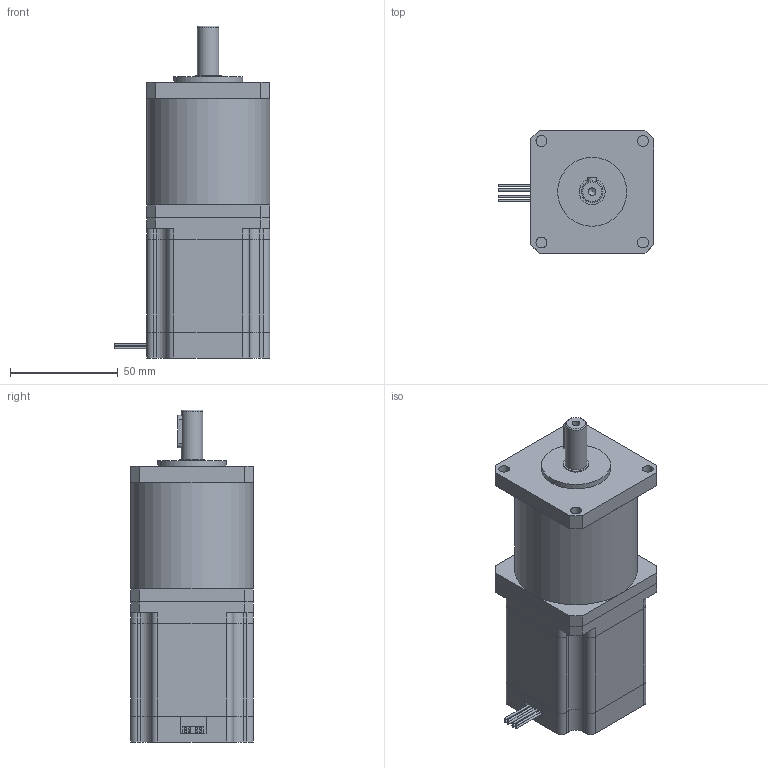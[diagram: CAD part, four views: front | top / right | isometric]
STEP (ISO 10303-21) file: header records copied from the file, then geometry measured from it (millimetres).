
FILE_DESCRIPTION(/* description */ (''),/* implementation_level */ '2;1');
FILE_NAME(/* name */ 'T57PG040-D44-0865.stp',/* time_stamp */ '2018-08-29T16:00:22+08:00',/* author */ (''),/* organization */ (''),/* preprocessor_version */ 'ST-DEVELOPER v11',/* originating_system */ 'SIEMENS UGS NX 6.0',/* authorisation */ '');
FILE_SCHEMA (('CONFIG_CONTROL_DESIGN'));
Length unit declared in the file: millimetre
Products named in the file (1): T57PG015-D44-0865
Bounding box: 72 x 57 x 154 mm (x, y, z)
Volume: 362966.8 mm3; surface area: 53404.9 mm2
Topology: 5 solids, 5 shells, 156 faces, 407 edges, 272 vertices
Faces by surface type: plane 99, cylinder 55, cone 1, torus 1
Full cylindrical faces by diameter (mm): 1 x8, 3.5 x1, 5 x4, 10 x1, 12 x1, 32 x1, 57 x1
Entity records: 4672 total; most frequent: DIRECTION 804, CARTESIAN_POINT 788, ORIENTED_EDGE 746, EDGE_CURVE 373, AXIS2_PLACEMENT_3D 274, VERTEX_POINT 258, LINE 256, VECTOR 256
